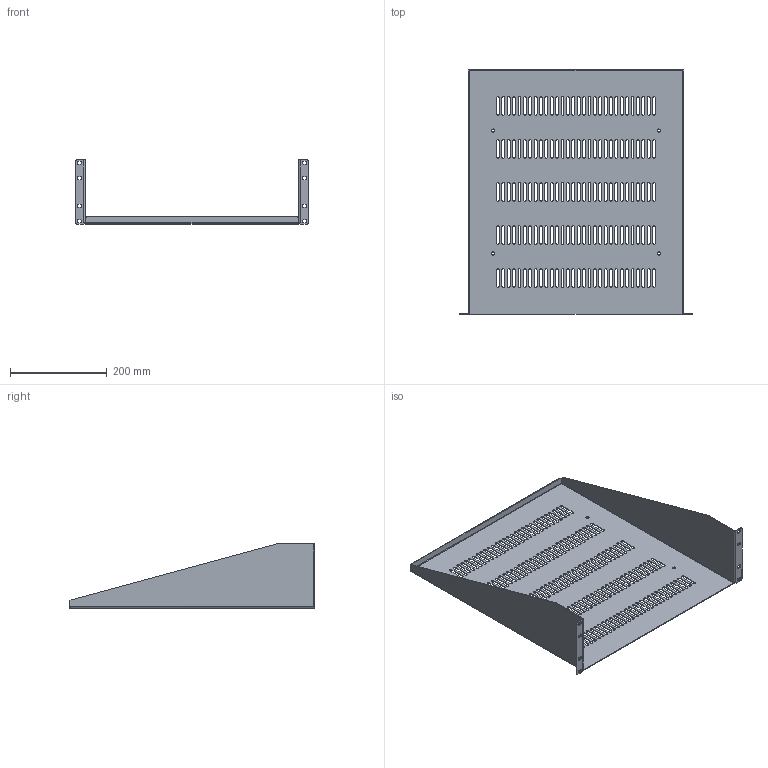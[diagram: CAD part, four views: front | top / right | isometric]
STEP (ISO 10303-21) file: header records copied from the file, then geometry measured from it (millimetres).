
FILE_DESCRIPTION( ( 'Unknown' ), '1' );
FILE_NAME( 'Q:/ACCESSORIES/SHELVES/RK _ RMA/WEB DRAWINGS/STEP/RASV190520.stp', 'Unknown', ( 'Unknown' ), ( 'Unknown' ), 'PSStep 10.1', 'Unknown', ' ' );
FILE_SCHEMA( ( 'AUTOMOTIVE_DESIGN { 1 0 10303 214 1 1 1 1 }' ) );
Length unit declared in the file: millimetre
Products named in the file (1): 1
Bounding box: 482.75 x 508 x 132.54 mm (x, y, z)
Volume: 519661.1 mm3; surface area: 595882.7 mm2
Topology: 1 solids, 1 shells, 700 faces, 2074 edges, 1376 vertices
Faces by surface type: plane 356, cylinder 340, bspline 4
Full cylindrical faces by diameter (mm): 6.35 x4
Entity records: 24445 total; most frequent: CARTESIAN_POINT 4443, ORIENTED_EDGE 4140, DIRECTION 4124, EDGE_CURVE 2070, AXIS2_PLACEMENT_3D 1377, VERTEX_POINT 1376, LINE 1370, VECTOR 1370
